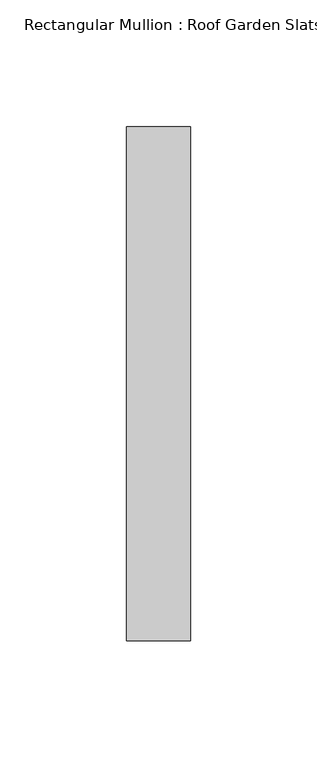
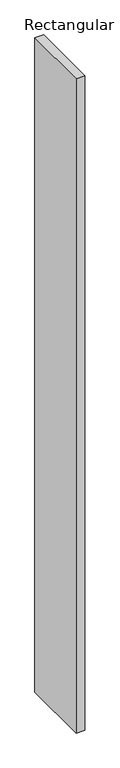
"""IFC4 building model written with IfcOpenShell, lengths in millimetres: member geometry, Rectangular Mullion : Roof Garden Slats."""

import ifcopenshell
import ifcopenshell.guid

model = None  # the IFC model being written
_history = None  # IfcOwnerHistory: only IFC2X3 demands one
_inside = {}  # id of a spatial element -> (the spatial element, [elements in it])
_under = {}  # id of a project, library or spatial element -> (it, [spatial elements below it])
_declared = {}  # id of a project -> (the project, [libraries it declares])
_typed = {}  # id of a type object -> (the type object, [elements of that type])
_made_of = {}  # id of a material, layer set ... -> (it, [elements and type objects made of it])


def new_model(schema):
    """Start an empty IFC model of exactly this schema.

    Asked for "IFC4X3", IfcOpenShell would pick the latest addendum, in which some entities
    have other attributes; the version numbers below select the first issue.
    IFC2X3 requires an IfcOwnerHistory on every rooted entity: one is made here for all.
    """
    global model, _history
    if schema == "IFC4X3":
        model = ifcopenshell.file(schema_version=(4, 3, 0, 0))
    else:
        model = ifcopenshell.file(schema=schema)
    _inside.clear()
    _under.clear()
    _declared.clear()
    _typed.clear()
    _made_of.clear()
    _history = None
    if model.schema == "IFC2X3":
        org = make("IfcOrganization", Name="unknown")
        user = make(
            "IfcPersonAndOrganization",
            ThePerson=make("IfcPerson", FamilyName="unknown"),
            TheOrganization=org,
        )
        app = make(
            "IfcApplication",
            ApplicationDeveloper=org,
            Version="unknown",
            ApplicationFullName="unknown",
            ApplicationIdentifier="unknown",
        )
        _history = make(
            "IfcOwnerHistory",
            OwningUser=user,
            OwningApplication=app,
            ChangeAction="ADDED",
            CreationDate=0,
        )
    return model


def make(cls, **values):
    """One entity of the class cls with the attributes given. An attribute that is None is left unset."""
    return model.create_entity(
        cls, **{name: value for name, value in values.items() if value is not None}
    )


def rooted(cls, **values):
    """An entity with a GlobalId (a new one), such as an element, a storey or a relation."""
    return make(cls, GlobalId=ifcopenshell.guid.new(), OwnerHistory=_history, **values)


def si_unit(unit_type, name, prefix=None):
    """IfcSIUnit, for example si_unit("LENGTHUNIT", "METRE", prefix="MILLI")."""
    return make("IfcSIUnit", UnitType=unit_type, Prefix=prefix, Name=name)


def assignment(units):
    """IfcUnitAssignment: the units of a project."""
    return None if units is None else make("IfcUnitAssignment", Units=units)


def point(xyz):
    """IfcCartesianPoint."""
    return None if xyz is None else make("IfcCartesianPoint", Coordinates=xyz)


def direction(xyz):
    """IfcDirection."""
    return None if xyz is None else make("IfcDirection", DirectionRatios=xyz)


def frame(location, z_axis=None, x_axis=None):
    """IfcAxis2Placement3D, a coordinate frame: its origin and axes. An axis left out is left unset."""
    return make(
        "IfcAxis2Placement3D",
        Location=point(location),
        Axis=direction(z_axis),
        RefDirection=direction(x_axis),
    )


def origin():
    """The frame at (0, 0, 0) with its axes left unset."""
    return frame((0.0, 0.0, 0.0))


def place(relative_to, where):
    """IfcLocalPlacement: puts the frame where relative to a parent placement (None: the world)."""
    return make(
        "IfcLocalPlacement", PlacementRelTo=relative_to, RelativePlacement=where
    )


def context(
    kind, dimensions, precision=None, world=None, true_north=None, identifier=None
):
    """IfcGeometricRepresentationContext, for example the 3D "Model" context."""
    return make(
        "IfcGeometricRepresentationContext",
        ContextIdentifier=identifier,
        ContextType=kind,
        CoordinateSpaceDimension=dimensions,
        Precision=precision,
        WorldCoordinateSystem=world,
        TrueNorth=true_north,
    )


def project(units=None, contexts=None):
    """IfcProject with its units and contexts."""
    return rooted(
        "IfcProject",
        Name="project",
        RepresentationContexts=contexts,
        UnitsInContext=assignment(units),
    )


def spatial(cls, under=None, at=None, **own):
    """A site, building, storey or space (cls), placed at a placement, below another one or the project."""
    s = rooted(cls, ObjectPlacement=at, **own)
    if under is not None:
        _under.setdefault(under.id(), (under, []))[1].append(s)
    return s


def polyline(points):
    """IfcPolyline through the points."""
    return make("IfcPolyline", Points=[point(p) for p in points])


def outline(outer, holes=None, kind="AREA"):
    """IfcArbitraryClosedProfileDef: a profile drawn as a closed curve; with holes, ...WithVoids."""
    if holes is None:
        return make("IfcArbitraryClosedProfileDef", ProfileType=kind, OuterCurve=outer)
    return make(
        "IfcArbitraryProfileDefWithVoids",
        ProfileType=kind,
        OuterCurve=outer,
        InnerCurves=holes,
    )


def extrude(swept, where, along, depth):
    """IfcExtrudedAreaSolid: the profile swept, set in the frame where, extruded along a direction by depth."""
    return make(
        "IfcExtrudedAreaSolid",
        SweptArea=swept,
        Position=where,
        ExtrudedDirection=direction(along),
        Depth=depth,
    )


def shape(context_of_items, identifier, shape_type, items):
    """IfcShapeRepresentation: the items that make up one representation, for example the "Body"."""
    return make(
        "IfcShapeRepresentation",
        ContextOfItems=context_of_items,
        RepresentationIdentifier=identifier,
        RepresentationType=shape_type,
        Items=items,
    )


def source(mapping_origin, context_of_items, identifier, shape_type, items):
    """IfcRepresentationMap: a shape defined once, which mapped items show again and again."""
    return make(
        "IfcRepresentationMap",
        MappingOrigin=mapping_origin,
        MappedRepresentation=shape(context_of_items, identifier, shape_type, items),
    )


def transform(
    local_origin,
    x_axis=None,
    y_axis=None,
    z_axis=None,
    scale=None,
    scale2=None,
    scale3=None,
    uniform=True,
):
    """IfcCartesianTransformationOperator3D, or its non-uniform kind. x_axis, y_axis, z_axis: its Axis1, 2, 3."""
    if uniform:
        return make(
            "IfcCartesianTransformationOperator3D",
            Axis1=direction(x_axis),
            Axis2=direction(y_axis),
            LocalOrigin=point(local_origin),
            Scale=scale,
            Axis3=direction(z_axis),
        )
    return make(
        "IfcCartesianTransformationOperator3DnonUniform",
        Axis1=direction(x_axis),
        Axis2=direction(y_axis),
        LocalOrigin=point(local_origin),
        Scale=scale,
        Axis3=direction(z_axis),
        Scale2=scale2,
        Scale3=scale3,
    )


def mapped(mapping_source, mapping_target):
    """IfcMappedItem: shows the shape of a source again, moved by a transform."""
    return make(
        "IfcMappedItem", MappingSource=mapping_source, MappingTarget=mapping_target
    )


def made_of(thing, what):
    """Note that an element or type object is made of a material, layer set ...; save() writes the relation."""
    if what is not None:
        _made_of.setdefault(what.id(), (what, []))[1].append(thing)
    return thing


def element(
    cls,
    number,
    at=None,
    inside=None,
    cuts=None,
    type_object=None,
    material=None,
    context=None,
    identifier="Body",
    shape_type=None,
    held_by="IfcProductDefinitionShape",
    body=None,
    shapes=None,
    **own,
):
    """One element of the class cls, such as IfcWall. Its Tag is "e" and its number.

    at: its placement. inside: the storey or other place that contains it. cuts: it is an
    opening in that element (IfcRelVoidsElement). A single representation is given by context,
    identifier, shape_type and body (its items); several are given by shapes. held_by: the class
    of the entity that holds the representations. save() writes the other relations.
    """
    e = rooted(cls, Tag="e%d" % number, ObjectPlacement=at, **own)
    if body is not None:
        shapes = [shape(context, identifier, shape_type, body)]
    if shapes is not None:
        e.Representation = make(held_by, Representations=shapes)
    if inside is not None:
        _inside.setdefault(inside.id(), (inside, []))[1].append(e)
    if cuts is not None:
        rooted(
            "IfcRelVoidsElement", RelatingBuildingElement=cuts, RelatedOpeningElement=e
        )
    if type_object is not None:
        _typed.setdefault(type_object.id(), (type_object, []))[1].append(e)
    return made_of(e, material)


def aggregate(whole, parts):
    """IfcRelAggregates: a whole, such as a stair, and the parts it consists of."""
    return rooted("IfcRelAggregates", RelatingObject=whole, RelatedObjects=parts)


def save(model, path):
    """Write the relations noted so far, then the file.

    IfcRelAggregates (storeys below a building ...), IfcRelContainedInSpatialStructure (elements
    in a storey), IfcRelDefinesByType, IfcRelAssociatesMaterial and IfcRelDeclares: one each for
    every whole, place, type object, material and project.
    """
    for whole, parts in _under.values():
        aggregate(whole, parts)
    for where, things in _inside.values():
        rooted(
            "IfcRelContainedInSpatialStructure",
            RelatedElements=things,
            RelatingStructure=where,
        )
    for kind, things in _typed.values():
        rooted("IfcRelDefinesByType", RelatedObjects=things, RelatingType=kind)
    for what, things in _made_of.values():
        rooted("IfcRelAssociatesMaterial", RelatedObjects=things, RelatingMaterial=what)
    for by, libraries in _declared.values():
        rooted("IfcRelDeclares", RelatingContext=by, RelatedDefinitions=libraries)
    model.write(path)


def rectangular_mullion_roof_garden_slats_53d9d435(model_context):
    return source(origin(), model_context, "Body", "SweptSolid", [
        extrude(outline(polyline([(12.7, 139.7), (12.7, -63.5), (-12.7, -63.5), (-12.7, 139.7), (12.7, 139.7)])), frame((0.0, 0.0, -1974.3019101), z_axis=(0.0, 0.0, 1.0), x_axis=(1.0, 0.0, 0.0)), (0.0, 0.0, 1.0), 1974.3019101),
    ])


if __name__ == "__main__":
    model = new_model("IFC4")
    model_context = context("Model", 3, world=origin())
    ifc_project = project(units=[si_unit("LENGTHUNIT", "METRE", prefix="MILLI")], contexts=[model_context])
    site = spatial("IfcSite", under=ifc_project)
    building = spatial("IfcBuilding", under=site)
    placement = place(None, origin())
    rectangular_mullion_roof_garden_slats_shape = rectangular_mullion_roof_garden_slats_53d9d435(model_context)
    element("IfcMember", 1, ObjectType="Rectangular Mullion : Roof Garden Slats", at=placement, inside=building, context=model_context, shape_type="MappedRepresentation", body=[
        mapped(rectangular_mullion_roof_garden_slats_shape, transform((0.0, 0.0, 0.0), x_axis=(1.0, 0.0, 0.0), y_axis=(0.0, 1.0, 0.0), z_axis=(0.0, 0.0, 1.0))),
    ])
    save(model, "model.ifc")
